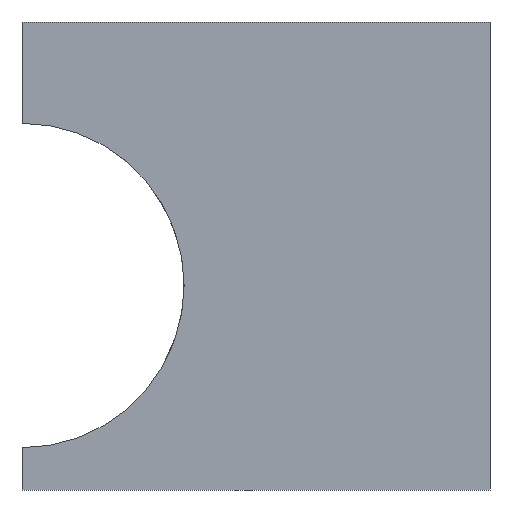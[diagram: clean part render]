
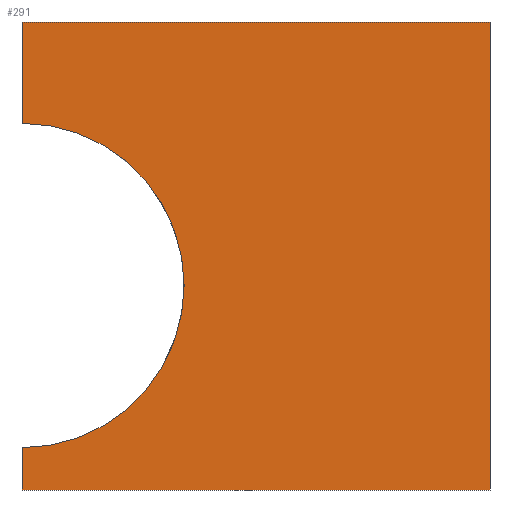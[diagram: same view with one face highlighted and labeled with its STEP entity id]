
A CAD part, front view. The second image highlights one B-rep face of the part: STEP entity #291.
In plain terms, the highlighted planar face has unit normal (0, -1, 0).
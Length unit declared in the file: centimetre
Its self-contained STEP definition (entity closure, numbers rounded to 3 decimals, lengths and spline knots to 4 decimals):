
#2 = VERTEX_POINT ( 'NONE', #492 ) ;
#3 = ORIENTED_EDGE ( 'NONE', *, *, #314, .T. ) ;
#14 = EDGE_CURVE ( 'NONE', #131, #2, #403, .T. ) ;
#18 = AXIS2_PLACEMENT_3D ( 'NONE', #456, #196, #70 ) ;
#27 = LINE ( 'NONE', #283, #356 ) ;
#45 = VERTEX_POINT ( 'NONE', #474 ) ;
#70 = DIRECTION ( 'NONE',  ( 0., 0., 1. ) ) ;
#82 = VECTOR ( 'NONE', #381, 100. ) ;
#88 = EDGE_LOOP ( 'NONE', ( #369, #537, #3, #261, #546, #399 ) ) ;
#91 = CARTESIAN_POINT ( 'NONE',  ( 0., 0., 0. ) ) ;
#92 = AXIS2_PLACEMENT_3D ( 'NONE', #527, #437, #420 ) ;
#122 = DIRECTION ( 'NONE',  ( 0., 0., -1. ) ) ;
#131 = VERTEX_POINT ( 'NONE', #397 ) ;
#143 = DIRECTION ( 'NONE',  ( 1., 0., 0. ) ) ;
#149 = VERTEX_POINT ( 'NONE', #175 ) ;
#170 = LINE ( 'NONE', #573, #345 ) ;
#175 = CARTESIAN_POINT ( 'NONE',  ( 0., 0., 783.413 ) ) ;
#190 = EDGE_CURVE ( 'NONE', #45, #353, #27, .T. ) ;
#196 = DIRECTION ( 'NONE',  ( 0., 1., 0. ) ) ;
#204 = CARTESIAN_POINT ( 'NONE',  ( 1000., 0., 1000. ) ) ;
#209 = DIRECTION ( 'NONE',  ( 0., 0., -1. ) ) ;
#238 = PLANE ( 'NONE',  #18 ) ;
#241 = CARTESIAN_POINT ( 'NONE',  ( 0., 0., 1000. ) ) ;
#261 = ORIENTED_EDGE ( 'NONE', *, *, #14, .T. ) ;
#280 = FACE_OUTER_BOUND ( 'NONE', #88, .T. ) ;
#283 = CARTESIAN_POINT ( 'NONE',  ( 0., 0., 1000. ) ) ;
#291 = ADVANCED_FACE ( 'NONE', ( #280 ), #238, .F. ) ;
#310 = VERTEX_POINT ( 'NONE', #462 ) ;
#314 = EDGE_CURVE ( 'NONE', #310, #131, #553, .T. ) ;
#321 = VECTOR ( 'NONE', #122, 100. ) ;
#345 = VECTOR ( 'NONE', #209, 100. ) ;
#353 = VERTEX_POINT ( 'NONE', #204 ) ;
#356 = VECTOR ( 'NONE', #424, 100. ) ;
#369 = ORIENTED_EDGE ( 'NONE', *, *, #400, .T. ) ;
#381 = DIRECTION ( 'NONE',  ( 0., 0., -1. ) ) ;
#386 = LINE ( 'NONE', #568, #321 ) ;
#397 = CARTESIAN_POINT ( 'NONE',  ( 0., 0., 0. ) ) ;
#399 = ORIENTED_EDGE ( 'NONE', *, *, #190, .F. ) ;
#400 = EDGE_CURVE ( 'NONE', #45, #149, #170, .T. ) ;
#403 = LINE ( 'NONE', #91, #543 ) ;
#420 = DIRECTION ( 'NONE',  ( 0., 0., 1. ) ) ;
#424 = DIRECTION ( 'NONE',  ( 1., 0., 0. ) ) ;
#427 = EDGE_CURVE ( 'NONE', #353, #2, #386, .T. ) ;
#437 = DIRECTION ( 'NONE',  ( 0., 1., 0. ) ) ;
#446 = EDGE_CURVE ( 'NONE', #149, #310, #511, .T. ) ;
#456 = CARTESIAN_POINT ( 'NONE',  ( 0., 0., 1000. ) ) ;
#462 = CARTESIAN_POINT ( 'NONE',  ( 0., 0., 90.3842 ) ) ;
#474 = CARTESIAN_POINT ( 'NONE',  ( 0., 0., 1000. ) ) ;
#492 = CARTESIAN_POINT ( 'NONE',  ( 1000., 0., 0. ) ) ;
#511 = CIRCLE ( 'NONE', #92, 346.5144 ) ;
#527 = CARTESIAN_POINT ( 'NONE',  ( 0., 0., 436.8986 ) ) ;
#537 = ORIENTED_EDGE ( 'NONE', *, *, #446, .T. ) ;
#543 = VECTOR ( 'NONE', #143, 100. ) ;
#546 = ORIENTED_EDGE ( 'NONE', *, *, #427, .F. ) ;
#553 = LINE ( 'NONE', #241, #82 ) ;
#568 = CARTESIAN_POINT ( 'NONE',  ( 1000., 0., 1000. ) ) ;
#573 = CARTESIAN_POINT ( 'NONE',  ( 0., 0., 1000. ) ) ;
